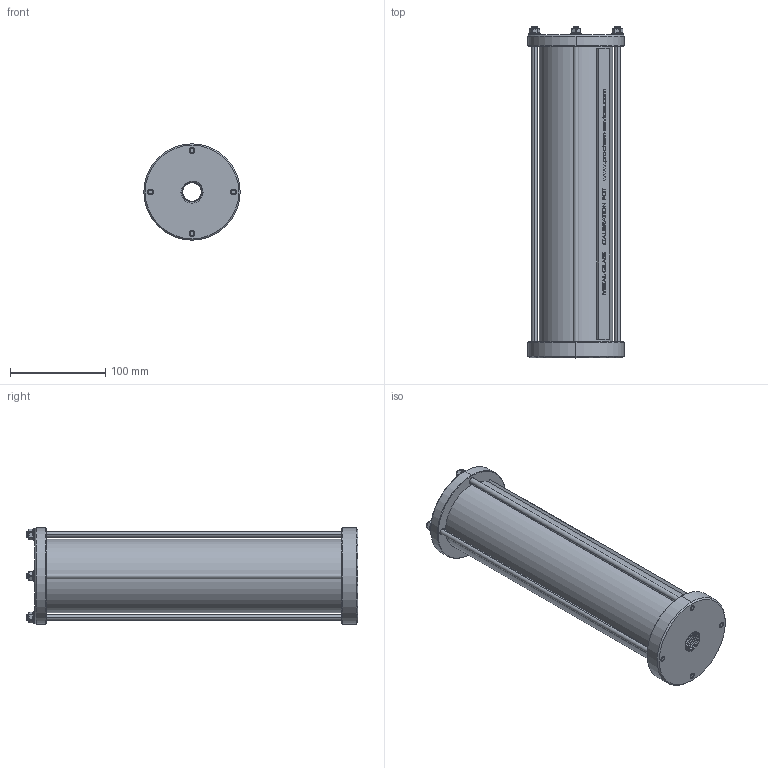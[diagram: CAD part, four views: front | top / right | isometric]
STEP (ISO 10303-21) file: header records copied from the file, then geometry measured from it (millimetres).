
FILE_DESCRIPTION (( 'STEP AP214' ), '1' );
FILE_NAME ('1.0LTR-C-11-34.STEP', '2026-01-12T12:49:56', ( '' ), ( '' ), 'SwSTEP 2.0', 'SolidWorks 2024', '' );
FILE_SCHEMA (( 'AUTOMOTIVE_DESIGN' ));
Length unit declared in the file: millimetre
Products named in the file (1): 1.0LTR-C-11-34
Bounding box: 101 x 348 x 101 mm (x, y, z)
Surface area: 215277.6 mm2 (no closed solid volume)
Topology: 0 solids, 39 shells, 580 faces, 2232 edges, 1652 vertices
Faces by surface type: cylinder 192, plane 164, bspline 160, cone 56, torus 8
Entity records: 52252 total; most frequent: CARTESIAN_POINT 30160, ORIENTED_EDGE 3139, DIRECTION 2505, EDGE_CURVE 2232, VERTEX_POINT 1652, LINE 1061, VECTOR 1061, AXIS2_PLACEMENT_3D 722
